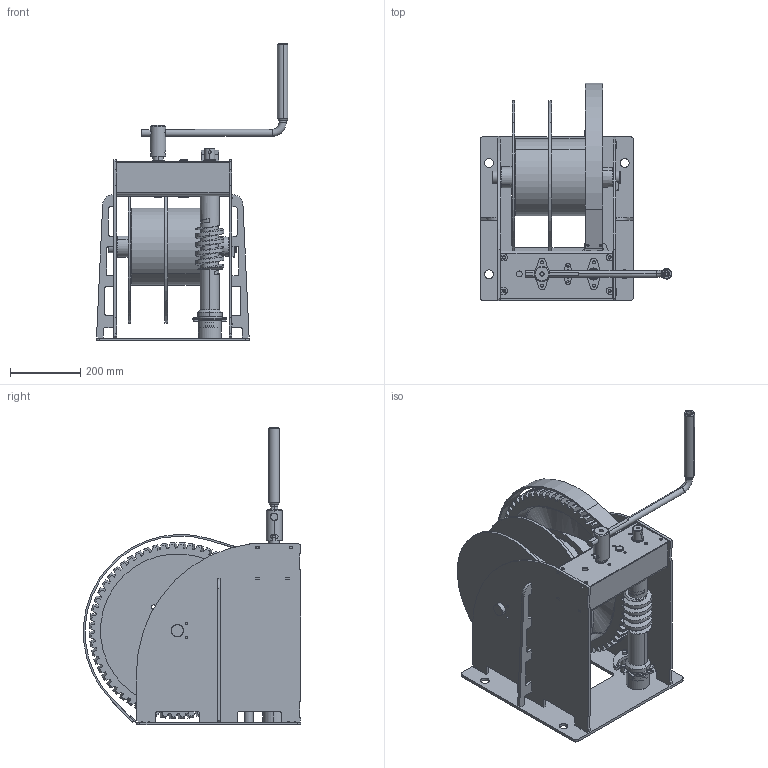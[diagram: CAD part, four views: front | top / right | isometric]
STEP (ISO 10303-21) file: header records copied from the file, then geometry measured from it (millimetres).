
FILE_DESCRIPTION (( 'STEP AP203' ), '1' );
FILE_NAME ('SL9071 WW5000 2D.STEP', '2015-09-16T09:18:38', ( '.' ), ( '.' ), 'SwSTEP 2.0', 'SolidWorks 2015', '' );
FILE_SCHEMA (( 'CONFIG_CONTROL_DESIGN' ));
Length unit declared in the file: millimetre
Products named in the file (42): SL0206_Tandwiel m3z15; SL0173_tussenflens_5000; SL1324 zijstrip; SL0823_glijlager_3520; SL1322 glijlager GSM 3034-20; spur gear_din_DIN - Spur gear 3M 34T 20PA 28FW ---S34A75H50L30.0R1; SL0233_Sam trommel_2D; SL1347 beschermkapplaat; SL1457 Beschermkap; SL1339 borgplaat; SL1234_pal_WWgroot; SL1429 voorbrug; SL1427 Sam huis; SL1425 achterplaat; SL9071 WW5000 2D; SL1432 trommelas; SL1333_palwiel_WW; SL1430 Sam voorbrug_Zonder lagers; SL0240_Trommelbuis; SL1426 zijplaat; SL1435 Wormas_met worm; SL1332 Lagerbus; SL1321 Flenslager GFL-20; SL0251_Trommelflens; SL1330 Lagerrring; SL0368_Slingerkop; SL1331 Sam palwiel; SL1320 Flenslager GFL-30; SL0196_Lagerring GL3520; SL1342 palas; SL0369_Slingerarm; SL1334 remschijf; SL1337 aandrijfas; SL0242_Wormwiel; SL1428 achterbrug; SL0370_Handvat; thrust ball bearing_68_din_DIN 711 - 51306 - 10,SI,NC,10_68; SL1336 tussenas; SL0241_Vastzetnok; SL1341 bevestigingsplaat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
Assembly tree (56 placements, depth 3):
  SL9071 WW5000 2D
    SL1427 Sam huis
      SL1425 achterplaat
      SL1426 zijplaat  x2
      SL1330 Lagerrring
      SL1342 palas
      SL1428 achterbrug
      SL1341 bevestigingsplaat  x4
      SL1324 zijstrip  x2
      SL1347 beschermkapplaat
    SL0233_Sam trommel_2D
      SL0240_Trommelbuis
      SL0251_Trommelflens
      SL0196_Lagerring GL3520
      SL0242_Wormwiel
      SL0241_Vastzetnok  x4
      SL0173_tussenflens_5000
    SL1430 Sam voorbrug_Zonder lagers
      SL1429 voorbrug
      SL1347 beschermkapplaat
    SL1321 Flenslager GFL-20  x2
    SL1320 Flenslager GFL-30  x3
    SL1337 aandrijfas
    SL1336 tussenas
    SL0206_Tandwiel m3z15  x2
    spur gear_din_DIN - Spur gear 3M 34T 20PA 28FW ---S34A75H50L30.0R1  x3
    SL1234_pal_WWgroot
    SL1331 Sam palwiel
      SL1333_palwiel_WW
      SL1332 Lagerbus
    SL1334 remschijf
    thrust ball bearing_68_din_DIN 711 - 51306 - 10,SI,NC,10_68
    SL1348 drukverdeelschijf
    SL1322 glijlager GSM 3034-20
    SL1339 borgplaat
    SL1432 trommelas
    SL1435 Wormas_met worm
    SL0368_Slingerkop
    SL0371_Sam slinger
      SL0369_Slingerarm
      SL0370_Handvat
    SL0823_glijlager_3520
    SL1457 Beschermkap
Bounding box: 545.04 x 617.37 x 847 mm (x, y, z)
Volume: 16361812.6 mm3; surface area: 3696655 mm2
Topology: 51 solids, 51 shells, 2417 faces, 6585 edges, 4324 vertices
Faces by surface type: cylinder 1229, plane 720, cone 270, bspline 164, torus 34
Entity records: 80608 total; most frequent: CARTESIAN_POINT 32649, ORIENTED_EDGE 9254, DIRECTION 8858, EDGE_CURVE 4627, AXIS2_PLACEMENT_3D 3423, VERTEX_POINT 3024, LINE 2012, VECTOR 2012
